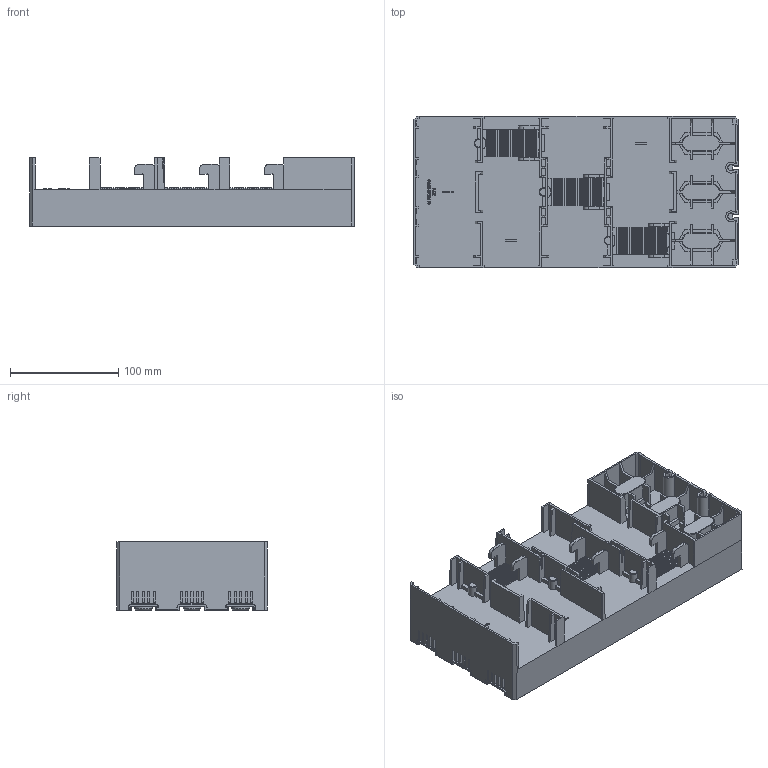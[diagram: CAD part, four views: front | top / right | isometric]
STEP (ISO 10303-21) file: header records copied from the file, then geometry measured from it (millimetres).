
FILE_DESCRIPTION (( 'STEP AP203' ), '1' );
FILE_NAME ('55020.STEP', '2021-08-31T04:52:27', ( '' ), ( '' ), 'SwSTEP 2.0', 'SolidWorks 2017', '' );
FILE_SCHEMA (( 'CONFIG_CONTROL_DESIGN' ));
Products named in the file (2): 55020
Bounding box: 300 x 140 x 63 mm (x, y, z)
Volume: 1374815.4 mm3; surface area: 278435.4 mm2
Topology: 1 solids, 26 shells, 3688 faces, 10555 edges, 6839 vertices
Faces by surface type: plane 3114, cylinder 487, bspline 44, cone 43
Full cylindrical faces by diameter (mm): 3 x4, 3.3 x4, 4.2 x7, 4.3 x8, 6.2 x2, 6.5 x2, 6.8 x10, 7.5 x6, 8 x3, 10 x2, 10.5 x2, 11 x1, 13 x3, 16.5 x3
Entity records: 118796 total; most frequent: CARTESIAN_POINT 23332, ORIENTED_EDGE 20800, DIRECTION 18147, EDGE_CURVE 10400, VECTOR 9275, LINE 9275, VERTEX_POINT 6793, AXIS2_PLACEMENT_3D 4436
